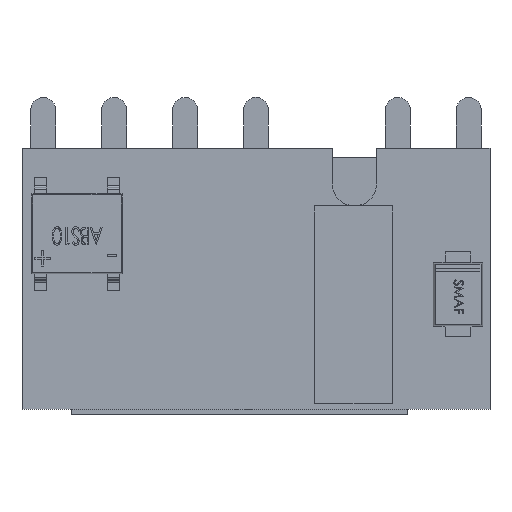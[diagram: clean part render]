
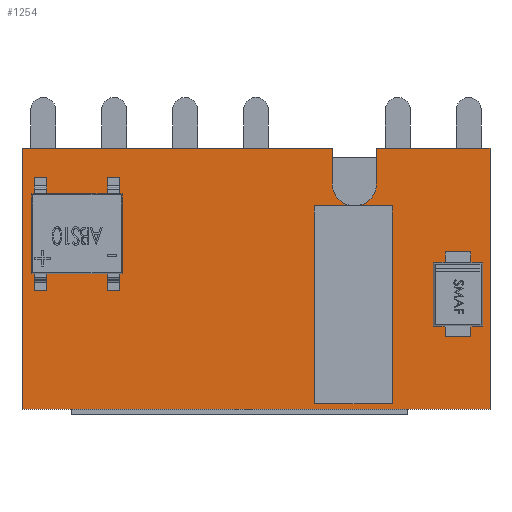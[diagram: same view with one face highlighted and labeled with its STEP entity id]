
A CAD part, front view. The second image highlights one B-rep face of the part: STEP entity #1254.
In plain terms, the highlighted planar face has unit normal (0, -1, 0).
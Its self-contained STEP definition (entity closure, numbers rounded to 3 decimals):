
#1254 = ADVANCED_FACE ( 'NONE', ( #5928 ), #8909, .F. ) ;
#2852 = VERTEX_POINT ( 'NONE', #12138 ) ;
#2863 = VERTEX_POINT ( 'NONE', #12135 ) ;
#2881 = VERTEX_POINT ( 'NONE', #12161 ) ;
#2921 = VERTEX_POINT ( 'NONE', #12165 ) ;
#2924 = VERTEX_POINT ( 'NONE', #12168 ) ;
#2935 = VERTEX_POINT ( 'NONE', #11739 ) ;
#2960 = VERTEX_POINT ( 'NONE', #13364 ) ;
#2968 = VERTEX_POINT ( 'NONE', #13393 ) ;
#3512 = ORIENTED_EDGE ( 'NONE', *, *, #3744, .T. ) ;
#3561 = ORIENTED_EDGE ( 'NONE', *, *, #3637, .F. ) ;
#3570 = ORIENTED_EDGE ( 'NONE', *, *, #3734, .F. ) ;
#3590 = ORIENTED_EDGE ( 'NONE', *, *, #3646, .F. ) ;
#3602 = ORIENTED_EDGE ( 'NONE', *, *, #3743, .T. ) ;
#3612 = ORIENTED_EDGE ( 'NONE', *, *, #3730, .T. ) ;
#3613 = ORIENTED_EDGE ( 'NONE', *, *, #3753, .F. ) ;
#3615 = ORIENTED_EDGE ( 'NONE', *, *, #3642, .F. ) ;
#3637 = EDGE_CURVE ( 'NONE', #2852, #2968, #12706, .T. ) ;
#3642 = EDGE_CURVE ( 'NONE', #2881, #2852, #12668, .T. ) ;
#3646 = EDGE_CURVE ( 'NONE', #2960, #2921, #12701, .T. ) ;
#3730 = EDGE_CURVE ( 'NONE', #2960, #2924, #12921, .T. ) ;
#3734 = EDGE_CURVE ( 'NONE', #2921, #2935, #12884, .T. ) ;
#3743 = EDGE_CURVE ( 'NONE', #2924, #2863, #12874, .T. ) ;
#3744 = EDGE_CURVE ( 'NONE', #2863, #2968, #12865, .T. ) ;
#3753 = EDGE_CURVE ( 'NONE', #2935, #2881, #12924, .T. ) ;
#4867 = EDGE_LOOP ( 'NONE', ( #3602, #3512, #3561, #3615, #3613, #3570, #3590, #3612 ) ) ;
#5928 = FACE_OUTER_BOUND ( 'NONE', #4867, .T. ) ;
#7076 = AXIS2_PLACEMENT_3D ( 'NONE', #8893, #8901, #8897 ) ;
#8893 = CARTESIAN_POINT ( 'NONE',  ( 0., 0., 0. ) ) ;
#8897 = DIRECTION ( 'NONE',  ( 0., 0., 1. ) ) ;
#8901 = DIRECTION ( 'NONE',  ( 0., 1., 0. ) ) ;
#8909 = PLANE ( 'NONE',  #7076 ) ;
#9638 = AXIS2_PLACEMENT_3D ( 'NONE', #13743, #13768, #13751 ) ;
#11739 = CARTESIAN_POINT ( 'NONE',  ( 26.4, 0., -17.6 ) ) ;
#12135 = CARTESIAN_POINT ( 'NONE',  ( 17.5, 0., -4.875 ) ) ;
#12138 = CARTESIAN_POINT ( 'NONE',  ( 0., 0., -2.87 ) ) ;
#12161 = CARTESIAN_POINT ( 'NONE',  ( 0., 0., -17.6 ) ) ;
#12165 = CARTESIAN_POINT ( 'NONE',  ( 26.4, 0., -2.87 ) ) ;
#12168 = CARTESIAN_POINT ( 'NONE',  ( 20., 0., -4.875 ) ) ;
#12668 = LINE ( 'NONE', #13473, #12698 ) ;
#12684 = VECTOR ( 'NONE', #13479, 1000. ) ;
#12697 = VECTOR ( 'NONE', #13465, 1000. ) ;
#12698 = VECTOR ( 'NONE', #13501, 1000. ) ;
#12701 = LINE ( 'NONE', #13481, #12697 ) ;
#12706 = LINE ( 'NONE', #13476, #12684 ) ;
#12865 = LINE ( 'NONE', #13770, #12869 ) ;
#12869 = VECTOR ( 'NONE', #13779, 1000. ) ;
#12874 = CIRCLE ( 'NONE', #9638, 1.25 ) ;
#12877 = VECTOR ( 'NONE', #13690, 1000. ) ;
#12884 = LINE ( 'NONE', #13729, #12877 ) ;
#12885 = VECTOR ( 'NONE', #13735, 1000. ) ;
#12921 = LINE ( 'NONE', #13708, #12885 ) ;
#12924 = LINE ( 'NONE', #13741, #12981 ) ;
#12981 = VECTOR ( 'NONE', #13744, 1000. ) ;
#13364 = CARTESIAN_POINT ( 'NONE',  ( 20., 0., -2.87 ) ) ;
#13393 = CARTESIAN_POINT ( 'NONE',  ( 17.5, 0., -2.87 ) ) ;
#13465 = DIRECTION ( 'NONE',  ( 1., 0., 0. ) ) ;
#13473 = CARTESIAN_POINT ( 'NONE',  ( 0., 0., -17.6 ) ) ;
#13476 = CARTESIAN_POINT ( 'NONE',  ( 0., 0., -2.87 ) ) ;
#13479 = DIRECTION ( 'NONE',  ( 1., 0., 0. ) ) ;
#13481 = CARTESIAN_POINT ( 'NONE',  ( 0., 0., -2.87 ) ) ;
#13501 = DIRECTION ( 'NONE',  ( 0., 0., 1. ) ) ;
#13690 = DIRECTION ( 'NONE',  ( 0., 0., -1. ) ) ;
#13708 = CARTESIAN_POINT ( 'NONE',  ( 20., 0., -2.87 ) ) ;
#13729 = CARTESIAN_POINT ( 'NONE',  ( 26.4, 0., -17.6 ) ) ;
#13735 = DIRECTION ( 'NONE',  ( 0., 0., -1. ) ) ;
#13741 = CARTESIAN_POINT ( 'NONE',  ( 0., 0., -17.6 ) ) ;
#13743 = CARTESIAN_POINT ( 'NONE',  ( 18.75, 0., -4.875 ) ) ;
#13744 = DIRECTION ( 'NONE',  ( -1., 0., 0. ) ) ;
#13751 = DIRECTION ( 'NONE',  ( 0., 0., 1. ) ) ;
#13768 = DIRECTION ( 'NONE',  ( 0., 1., 0. ) ) ;
#13770 = CARTESIAN_POINT ( 'NONE',  ( 17.5, 0., -4.875 ) ) ;
#13779 = DIRECTION ( 'NONE',  ( 0., 0., 1. ) ) ;
